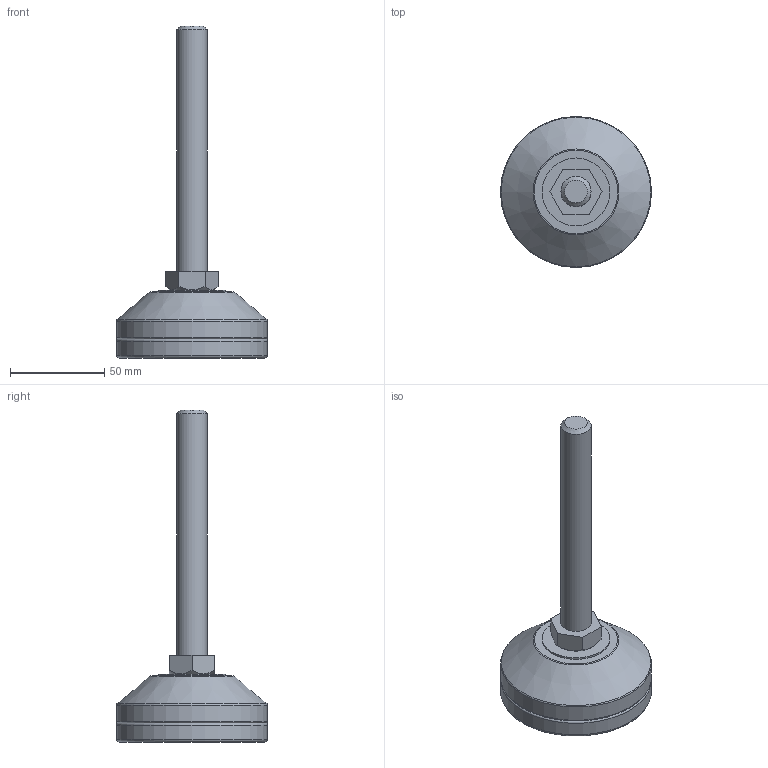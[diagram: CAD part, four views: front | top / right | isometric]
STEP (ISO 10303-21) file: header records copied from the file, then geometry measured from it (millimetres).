
FILE_DESCRIPTION(/* description */ (''),/* implementation_level */ '2;1');
FILE_NAME(/* name */ 'D:\조절자\FR\FR-M16-130L.stp',/* time_stamp */ '2016-03-14T14:38:24+09:00',/* author */ ('GS-DT-1-001'),/* organization */ (''),/* preprocessor_version */ 'ST-DEVELOPER v15.6',/* originating_system */ 'Autodesk Inventor LT ',/* authorisation */ '');
FILE_SCHEMA (('AUTOMOTIVE_DESIGN { 1 0 10303 214 3 1 1 }'));
Length unit declared in the file: millimetre
Products named in the file (1): FR-M16-130L
Bounding box: 80 x 80 x 176 mm (x, y, z)
Volume: 149082.8 mm3; surface area: 33953.5 mm2
Topology: 1 solids, 5 shells, 50 faces, 87 edges, 53 vertices
Faces by surface type: plane 22, cylinder 14, cone 8, torus 6
Full cylindrical faces by diameter (mm): 6.912 x1, 8 x1, 8.2 x1, 8.3 x1, 16 x2, 36 x1, 50 x1, 57 x1, 61 x1, 71 x1, 75 x1, 80 x2
Entity records: 1060 total; most frequent: DIRECTION 194, CARTESIAN_POINT 173, ORIENTED_EDGE 116, AXIS2_PLACEMENT_3D 91, EDGE_LOOP 88, EDGE_CURVE 58, VERTEX_POINT 52, FACE_OUTER_BOUND 50
